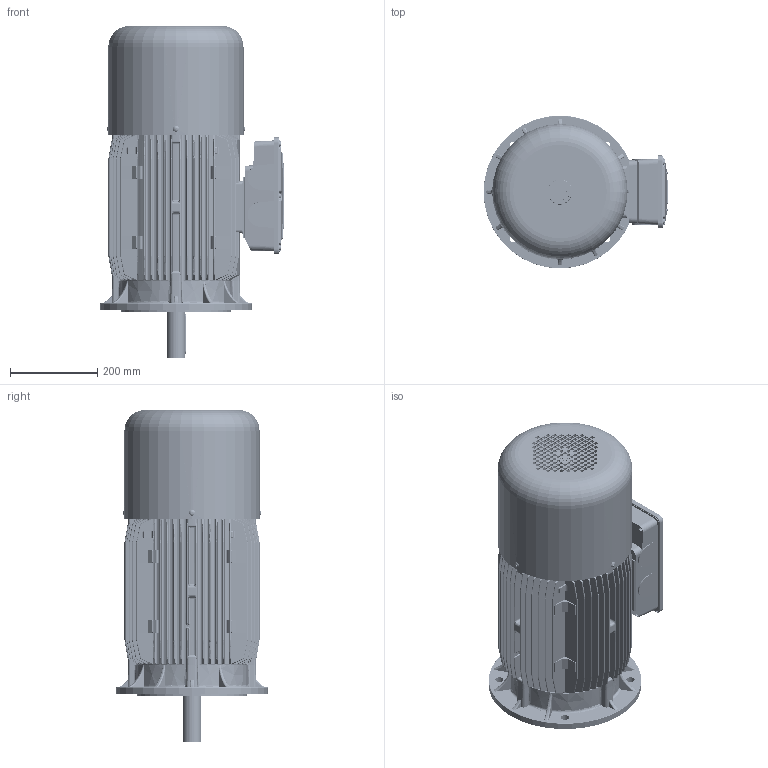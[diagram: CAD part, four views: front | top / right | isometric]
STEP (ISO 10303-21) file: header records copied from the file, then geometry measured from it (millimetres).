
FILE_DESCRIPTION (( 'STEP AP214' ), '1' );
FILE_NAME ('M14LB0010.STEP', '2019-04-16T09:06:14', ( '' ), ( '' ), 'SwSTEP 2.0', 'SolidWorks 2018', '' );
FILE_SCHEMA (( 'AUTOMOTIVE_DESIGN' ));
Length unit declared in the file: millimetre
Products named in the file (15): M14LB0010; Vite a Brugola M10x75; Vite testa rotonda M6; Scatola Morsettiera Doppia BA 160 - 180 - 200 - Completa; Guarnizione Basetta BA 160-180 - 200 - D6BB0000; Vite Testa Bombata M6x20; Guarnizione Coperchio Sc. Mor. BA 160-180-200 - D6BA0100; Coperchio Scatola Morsettiera Doppia BA 160 - 180 - 200 - D6A60099; Scatola morsettiera 160; Cuffia BM 160; Scudo Lato Freno P1 BM 160 - D6BE0202; Chiavetta 160; Albero BM 160 L; Scudo a flangia B5 Fi 350 BA 160 - D6AA0094; Carcassa 160 L B5
Assembly tree (25 placements, depth 3):
  M14LB0010
    Carcassa 160 L B5
    Scudo a flangia B5 Fi 350 BA 160 - D6AA0094
    Albero BM 160 L
    Chiavetta 160
    Scudo Lato Freno P1 BM 160 - D6BE0202
    Cuffia BM 160
    Scatola Morsettiera Doppia BA 160 - 180 - 200 - Completa
      Scatola morsettiera 160
      Coperchio Scatola Morsettiera Doppia BA 160 - 180 - 200 - D6A60099
      Guarnizione Coperchio Sc. Mor. BA 160-180-200 - D6BA0100
      Vite Testa Bombata M6x20  x6
      Guarnizione Basetta BA 160-180 - 200 - D6BB0000
    Vite testa rotonda M6  x4
    Vite a Brugola M10x75  x4
Bounding box: 423.49 x 350 x 760 mm (x, y, z)
Volume: 9307865.9 mm3; surface area: 2967116.7 mm2
Topology: 24 solids, 24 shells, 5130 faces, 14335 edges, 9189 vertices
Faces by surface type: cylinder 2261, plane 1574, bspline 563, torus 356, cone 326, sphere 50
Entity records: 234863 total; most frequent: CARTESIAN_POINT 125382, ORIENTED_EDGE 24034, DIRECTION 20809, EDGE_CURVE 12017, VERTEX_POINT 7746, AXIS2_PLACEMENT_3D 7689, LINE 5431, VECTOR 5431
